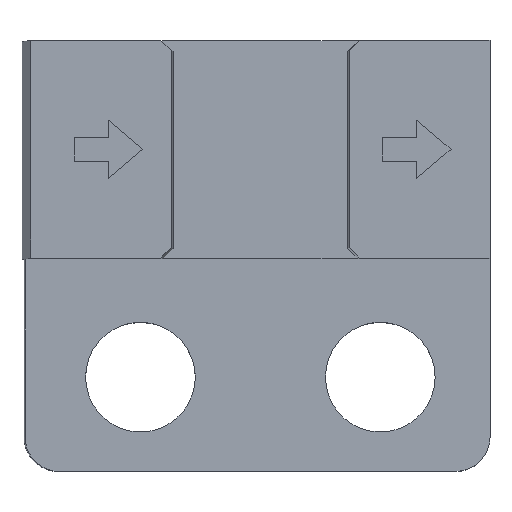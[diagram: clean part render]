
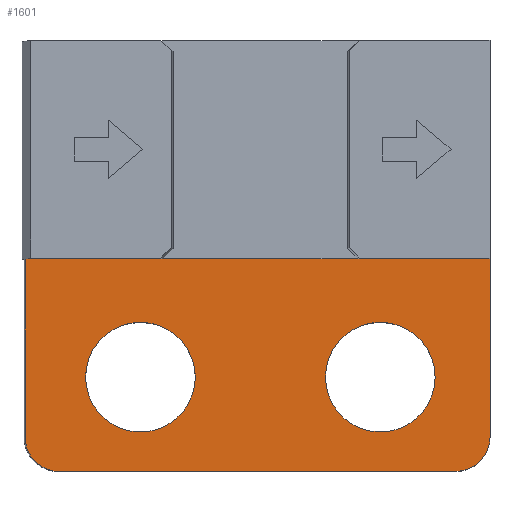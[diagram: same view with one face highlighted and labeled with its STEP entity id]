
A CAD part, top view. The second image highlights one B-rep face of the part: STEP entity #1601.
In plain terms, the highlighted planar face has unit normal (0, 0, 1).
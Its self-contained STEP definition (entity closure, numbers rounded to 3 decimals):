
#13=DIRECTION('',(-1.,0.,0.));
#14=VECTOR('',#13,13.566);
#15=CARTESIAN_POINT('',(6.7,-3.175,11.7));
#16=LINE('',#15,#14);
#118=DIRECTION('',(0.,-1.,0.));
#119=VECTOR('',#118,5.2);
#120=CARTESIAN_POINT('',(-6.866,-3.175,11.7));
#121=LINE('',#120,#119);
#246=CARTESIAN_POINT('',(5.7,-8.375,11.7));
#247=DIRECTION('',(0.,0.,1.));
#248=DIRECTION('',(0.,-1.,0.));
#249=AXIS2_PLACEMENT_3D('',#246,#247,#248);
#251=CARTESIAN_POINT('',(-6.866,-8.375,11.7));
#252=CARTESIAN_POINT('',(-6.866,-8.542,11.7));
#253=CARTESIAN_POINT('',(-6.794,-8.803,11.7));
#254=CARTESIAN_POINT('',(-6.588,-9.097,11.7));
#255=CARTESIAN_POINT('',(-6.294,-9.303,11.7));
#256=CARTESIAN_POINT('',(-6.033,-9.375,11.7));
#257=CARTESIAN_POINT('',(-5.866,-9.375,11.7));
#259=CARTESIAN_POINT('',(3.5,-6.625,11.7));
#260=DIRECTION('',(0.,0.,-1.));
#261=DIRECTION('',(1.,0.,0.));
#262=AXIS2_PLACEMENT_3D('',#259,#260,#261);
#264=CARTESIAN_POINT('',(3.5,-6.625,11.7));
#265=DIRECTION('',(0.,0.,-1.));
#266=DIRECTION('',(-1.,0.,0.));
#267=AXIS2_PLACEMENT_3D('',#264,#265,#266);
#269=CARTESIAN_POINT('',(-3.5,-6.625,11.7));
#270=DIRECTION('',(0.,0.,-1.));
#271=DIRECTION('',(1.,0.,0.));
#272=AXIS2_PLACEMENT_3D('',#269,#270,#271);
#274=CARTESIAN_POINT('',(-3.5,-6.625,11.7));
#275=DIRECTION('',(0.,0.,-1.));
#276=DIRECTION('',(-1.,0.,0.));
#277=AXIS2_PLACEMENT_3D('',#274,#275,#276);
#351=DIRECTION('',(-1.,0.,0.));
#352=VECTOR('',#351,11.566);
#353=CARTESIAN_POINT('',(5.7,-9.375,11.7));
#354=LINE('',#353,#352);
#385=DIRECTION('',(0.,-1.,0.));
#386=VECTOR('',#385,5.2);
#387=CARTESIAN_POINT('',(6.7,-3.175,11.7));
#388=LINE('',#387,#386);
#1045=CARTESIAN_POINT('',(6.7,-3.175,11.7));
#1046=CARTESIAN_POINT('',(-6.866,-3.175,11.7));
#1047=VERTEX_POINT('',#1045);
#1048=VERTEX_POINT('',#1046);
#1061=CARTESIAN_POINT('',(5.7,-9.375,11.7));
#1062=VERTEX_POINT('',#1061);
#1063=CARTESIAN_POINT('',(6.7,-8.375,11.7));
#1064=VERTEX_POINT('',#1063);
#1065=VERTEX_POINT('',#251);
#1066=VERTEX_POINT('',#257);
#1118=CARTESIAN_POINT('',(5.1,-6.625,11.7));
#1119=CARTESIAN_POINT('',(1.9,-6.625,11.7));
#1120=VERTEX_POINT('',#1118);
#1121=VERTEX_POINT('',#1119);
#1122=CARTESIAN_POINT('',(-1.9,-6.625,11.7));
#1123=CARTESIAN_POINT('',(-5.1,-6.625,11.7));
#1124=VERTEX_POINT('',#1122);
#1125=VERTEX_POINT('',#1123);
#1572=CARTESIAN_POINT('',(6.7,-3.175,11.7));
#1573=DIRECTION('',(0.,0.,1.));
#1574=DIRECTION('',(0.,-1.,0.));
#1575=AXIS2_PLACEMENT_3D('',#1572,#1573,#1574);
#1576=PLANE('',#1575);
#1578=ORIENTED_EDGE('',*,*,#1577,.F.);
#1580=ORIENTED_EDGE('',*,*,#1579,.T.);
#1582=ORIENTED_EDGE('',*,*,#1581,.F.);
#1583=ORIENTED_EDGE('',*,*,#1378,.F.);
#1584=ORIENTED_EDGE('',*,*,#1229,.F.);
#1586=ORIENTED_EDGE('',*,*,#1585,.T.);
#1587=EDGE_LOOP('',(#1578,#1580,#1582,#1583,#1584,#1586));
#1588=FACE_OUTER_BOUND('',#1587,.F.);
#1590=ORIENTED_EDGE('',*,*,#1589,.F.);
#1592=ORIENTED_EDGE('',*,*,#1591,.F.);
#1593=EDGE_LOOP('',(#1590,#1592));
#1594=FACE_BOUND('',#1593,.F.);
#1596=ORIENTED_EDGE('',*,*,#1595,.F.);
#1598=ORIENTED_EDGE('',*,*,#1597,.F.);
#1599=EDGE_LOOP('',(#1596,#1598));
#1600=FACE_BOUND('',#1599,.F.);
#1601=ADVANCED_FACE('',(#1588,#1594,#1600),#1576,.T.);
#250=CIRCLE('',#249,1.);
#258=B_SPLINE_CURVE_WITH_KNOTS('',3,(#251,#252,#253,#254,#255,#256,#257),
.UNSPECIFIED.,.F.,.F.,(4,1,1,1,4),(0.,0.25,0.5,0.75,1.),
.UNSPECIFIED.);
#263=CIRCLE('',#262,1.6);
#268=CIRCLE('',#267,1.6);
#273=CIRCLE('',#272,1.6);
#278=CIRCLE('',#277,1.6);
#1229=EDGE_CURVE('',#1047,#1048,#16,.T.);
#1378=EDGE_CURVE('',#1048,#1065,#121,.T.);
#1577=EDGE_CURVE('',#1062,#1064,#250,.T.);
#1579=EDGE_CURVE('',#1062,#1066,#354,.T.);
#1581=EDGE_CURVE('',#1065,#1066,#258,.T.);
#1585=EDGE_CURVE('',#1047,#1064,#388,.T.);
#1589=EDGE_CURVE('',#1120,#1121,#263,.T.);
#1591=EDGE_CURVE('',#1121,#1120,#268,.T.);
#1595=EDGE_CURVE('',#1124,#1125,#273,.T.);
#1597=EDGE_CURVE('',#1125,#1124,#278,.T.);
